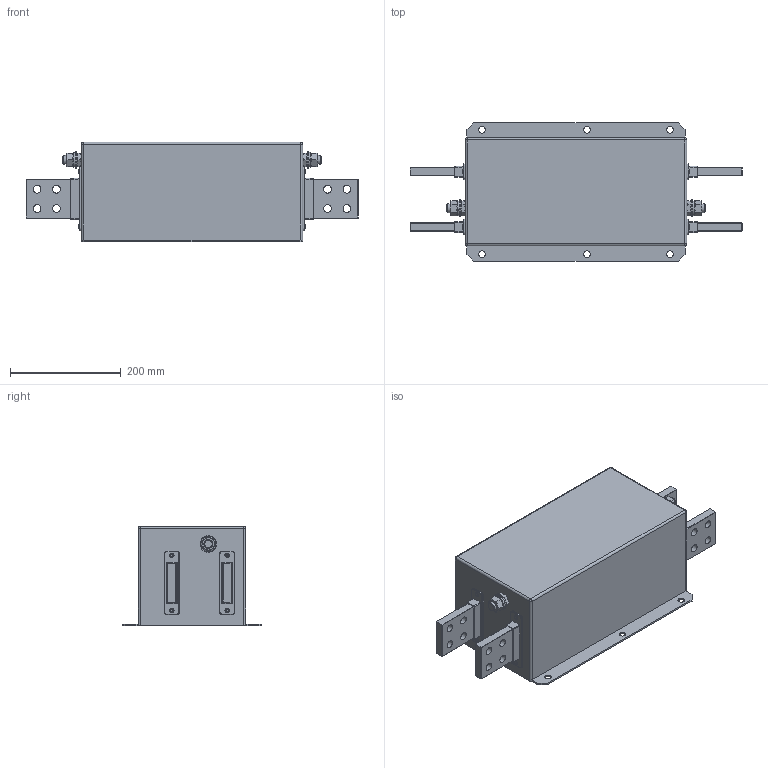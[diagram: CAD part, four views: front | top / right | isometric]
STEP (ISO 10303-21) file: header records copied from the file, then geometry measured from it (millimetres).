
FILE_DESCRIPTION((''),'2;1');
FILE_NAME('P:\Construction\Filter_Marketing\FN\FN2200\FN2200-2300-99\FN2200-2300-99.stp','2014-07-17T11:27:55',('erika.jenzer'),(''),'Autodesk Inventor 2013','Autodesk Inventor 2013','');
FILE_SCHEMA(('AUTOMOTIVE_DESIGN { 1 0 10303 214 1 1 1 1 }'));
Length unit declared in the file: millimetre
Products named in the file (1): FN2200-2300-99
Bounding box: 600 x 250 x 180 mm (x, y, z)
Volume: 14569626.3 mm3; surface area: 529934.7 mm2
Topology: 15 solids, 15 shells, 502 faces, 1220 edges, 810 vertices
Faces by surface type: plane 254, cylinder 186, torus 32, bspline 16, cone 10, sphere 4
Full cylindrical faces by diameter (mm): 4 x8, 6 x8, 8 x8, 10 x8, 12 x6, 14 x16, 16 x4, 17 x2, 30 x2
Entity records: 15188 total; most frequent: CARTESIAN_POINT 2867, DIRECTION 2498, ORIENTED_EDGE 2172, EDGE_CURVE 1086, AXIS2_PLACEMENT_3D 941, VERTEX_POINT 734, EDGE_LOOP 714, VECTOR 616
